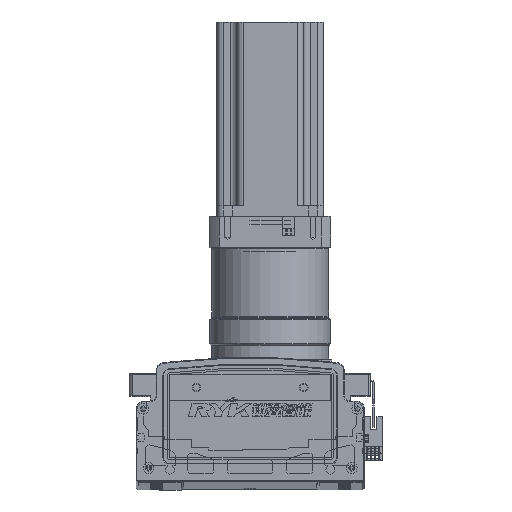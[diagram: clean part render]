
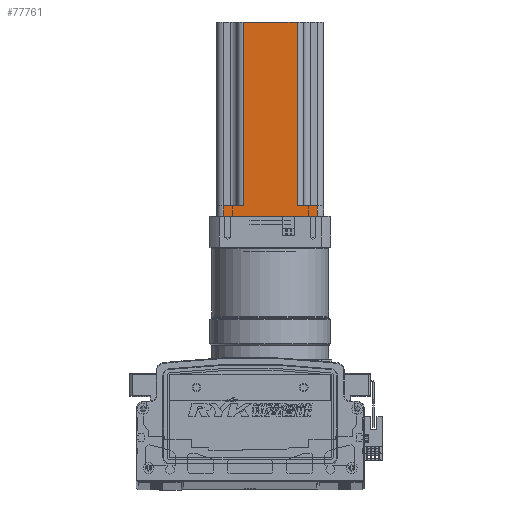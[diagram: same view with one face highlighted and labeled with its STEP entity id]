
A CAD part, top view. The second image highlights one B-rep face of the part: STEP entity #77761.
In plain terms, the highlighted planar face has unit normal (0, 0, 1) as drawn and (0, -1, 0) by its records, which use the part's own axes.
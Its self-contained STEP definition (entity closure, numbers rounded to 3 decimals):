
#20 = DIRECTION ( 'NONE',  ( 0., 0., 1. ) ) ;
#27 = CARTESIAN_POINT ( 'NONE',  ( -12.587, -40.37, 145. ) ) ;
#742 = CARTESIAN_POINT ( 'NONE',  ( -87.587, -40.37, 8. ) ) ;
#744 = DIRECTION ( 'NONE',  ( 1., 0., 0. ) ) ;
#749 = DIRECTION ( 'NONE',  ( 1., 0., 0. ) ) ;
#786 = CARTESIAN_POINT ( 'NONE',  ( -87.587, -40.37, 0. ) ) ;
#790 = DIRECTION ( 'NONE',  ( 0., 0., -1. ) ) ;
#797 = CARTESIAN_POINT ( 'NONE',  ( -82.587, -40.37, 145. ) ) ;
#847 = DIRECTION ( 'NONE',  ( 0., 0., 1. ) ) ;
#866 = CARTESIAN_POINT ( 'NONE',  ( -27.587, -40.37, 145. ) ) ;
#2967 = VECTOR ( 'NONE', #744, 1000. ) ;
#2999 = LINE ( 'NONE', #742, #2967 ) ;
#3019 = LINE ( 'NONE', #797, #3060 ) ;
#3033 = VECTOR ( 'NONE', #749, 1000. ) ;
#3060 = VECTOR ( 'NONE', #790, 1000. ) ;
#3062 = LINE ( 'NONE', #786, #3033 ) ;
#3075 = LINE ( 'NONE', #866, #3109 ) ;
#3091 = LINE ( 'NONE', #60860, #3096 ) ;
#3092 = LINE ( 'NONE', #60766, #3093 ) ;
#3093 = VECTOR ( 'NONE', #60810, 1000. ) ;
#3096 = VECTOR ( 'NONE', #60851, 1000. ) ;
#3109 = VECTOR ( 'NONE', #847, 1000. ) ;
#3135 = LINE ( 'NONE', #27, #3137 ) ;
#3137 = VECTOR ( 'NONE', #20, 1000. ) ;
#3178 = VECTOR ( 'NONE', #60857, 1000. ) ;
#3190 = LINE ( 'NONE', #60878, #3178 ) ;
#16127 = ORIENTED_EDGE ( 'NONE', *, *, #105720, .F. ) ;
#16228 = ORIENTED_EDGE ( 'NONE', *, *, #105780, .T. ) ;
#16384 = ORIENTED_EDGE ( 'NONE', *, *, #105928, .F. ) ;
#16390 = ORIENTED_EDGE ( 'NONE', *, *, #105836, .T. ) ;
#16412 = ORIENTED_EDGE ( 'NONE', *, *, #105911, .F. ) ;
#16415 = ORIENTED_EDGE ( 'NONE', *, *, #105913, .T. ) ;
#16503 = ORIENTED_EDGE ( 'NONE', *, *, #105752, .T. ) ;
#16523 = ORIENTED_EDGE ( 'NONE', *, *, #105898, .T. ) ;
#26035 = FACE_OUTER_BOUND ( 'NONE', #40487, .T. ) ;
#37265 = DIRECTION ( 'NONE',  ( -1., 0., 0. ) ) ;
#37285 = PLANE ( 'NONE',  #40688 ) ;
#37311 = DIRECTION ( 'NONE',  ( 0., 1., 0. ) ) ;
#37317 = CARTESIAN_POINT ( 'NONE',  ( -87.587, -40.37, 145. ) ) ;
#40487 = EDGE_LOOP ( 'NONE', ( #16127, #16228, #16503, #16523, #16384, #16390, #16412, #16415 ) ) ;
#40688 = AXIS2_PLACEMENT_3D ( 'NONE', #37317, #37311, #37265 ) ;
#60766 = CARTESIAN_POINT ( 'NONE',  ( -67.587, -40.37, 145. ) ) ;
#60810 = DIRECTION ( 'NONE',  ( 0., 0., -1. ) ) ;
#60851 = DIRECTION ( 'NONE',  ( 1., 0., 0. ) ) ;
#60857 = DIRECTION ( 'NONE',  ( 1., 0., 0. ) ) ;
#60860 = CARTESIAN_POINT ( 'NONE',  ( -87.587, -40.37, 145. ) ) ;
#60878 = CARTESIAN_POINT ( 'NONE',  ( -7.587, -40.37, 8. ) ) ;
#77761 = ADVANCED_FACE ( 'NONE', ( #26035 ), #37285, .F. ) ;
#80685 = VERTEX_POINT ( 'NONE', #111618 ) ;
#81919 = VERTEX_POINT ( 'NONE', #107942 ) ;
#81954 = VERTEX_POINT ( 'NONE', #107922 ) ;
#82018 = VERTEX_POINT ( 'NONE', #107990 ) ;
#82063 = VERTEX_POINT ( 'NONE', #108096 ) ;
#82110 = VERTEX_POINT ( 'NONE', #108111 ) ;
#82112 = VERTEX_POINT ( 'NONE', #108022 ) ;
#82142 = VERTEX_POINT ( 'NONE', #108109 ) ;
#105720 = EDGE_CURVE ( 'NONE', #82063, #82018, #2999, .T. ) ;
#105752 = EDGE_CURVE ( 'NONE', #82112, #81919, #3062, .T. ) ;
#105780 = EDGE_CURVE ( 'NONE', #82063, #82112, #3019, .T. ) ;
#105836 = EDGE_CURVE ( 'NONE', #80685, #82110, #3075, .T. ) ;
#105898 = EDGE_CURVE ( 'NONE', #81919, #82142, #3135, .T. ) ;
#105911 = EDGE_CURVE ( 'NONE', #81954, #82110, #3091, .T. ) ;
#105913 = EDGE_CURVE ( 'NONE', #81954, #82018, #3092, .T. ) ;
#105928 = EDGE_CURVE ( 'NONE', #80685, #82142, #3190, .T. ) ;
#107922 = CARTESIAN_POINT ( 'NONE',  ( -67.587, -40.37, 145. ) ) ;
#107942 = CARTESIAN_POINT ( 'NONE',  ( -12.587, -40.37, 0. ) ) ;
#107990 = CARTESIAN_POINT ( 'NONE',  ( -67.587, -40.37, 8. ) ) ;
#108022 = CARTESIAN_POINT ( 'NONE',  ( -82.587, -40.37, 0. ) ) ;
#108096 = CARTESIAN_POINT ( 'NONE',  ( -82.587, -40.37, 8. ) ) ;
#108109 = CARTESIAN_POINT ( 'NONE',  ( -12.587, -40.37, 8. ) ) ;
#108111 = CARTESIAN_POINT ( 'NONE',  ( -27.587, -40.37, 145. ) ) ;
#111618 = CARTESIAN_POINT ( 'NONE',  ( -27.587, -40.37, 8. ) ) ;
